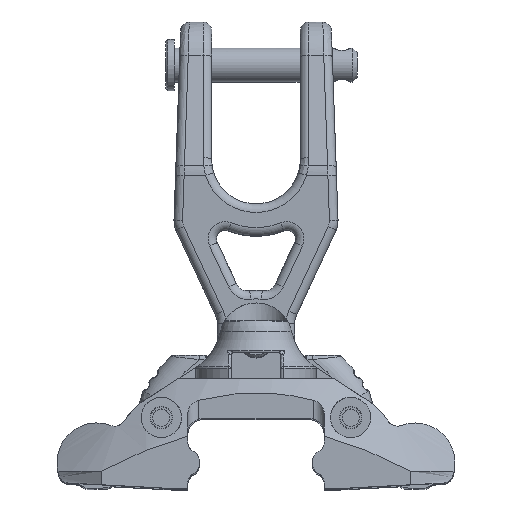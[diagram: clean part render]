
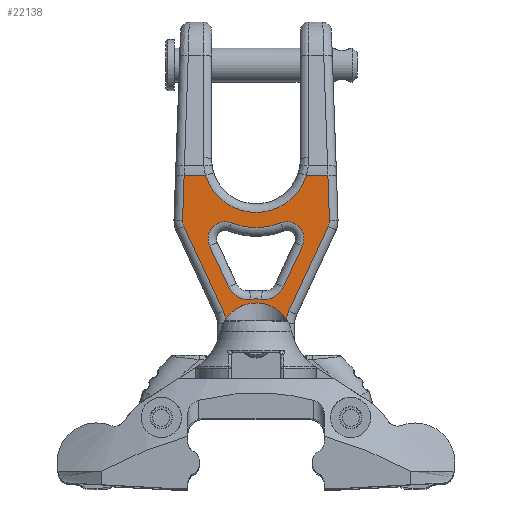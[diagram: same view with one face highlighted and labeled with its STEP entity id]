
A CAD part, top view. The second image highlights one B-rep face of the part: STEP entity #22138.
In plain terms, the highlighted planar face has unit normal (0, 0, 1) as drawn and (0, 0, -1) by its records, which use the part's own axes.
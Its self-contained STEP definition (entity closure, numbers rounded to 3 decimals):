
#18622=CARTESIAN_POINT('',(-7.164,23.541,
-15.925));
#18623=DIRECTION('',(0.,0.,1.));
#18624=DIRECTION('',(0.362,0.932,0.));
#18625=AXIS2_PLACEMENT_3D('',#18622,#18623,#18624);
#18627=CARTESIAN_POINT('',(0.,42.,-15.925));
#18628=DIRECTION('',(0.,0.,-1.));
#18629=DIRECTION('',(0.362,-0.932,0.));
#18630=AXIS2_PLACEMENT_3D('',#18627,#18628,#18629);
#18632=CARTESIAN_POINT('',(7.164,23.541,
-15.925));
#18633=DIRECTION('',(0.,0.,1.));
#18634=DIRECTION('',(0.906,-0.423,0.));
#18635=AXIS2_PLACEMENT_3D('',#18632,#18633,#18634);
#18637=DIRECTION('',(0.423,0.906,0.));
#18638=VECTOR('',#18637,10.46);
#18639=CARTESIAN_POINT('',(6.369,12.371,-15.925));
#18640=LINE('',#18639,#18638);
#18641=CARTESIAN_POINT('',(1.837,14.484,-15.925));
#18642=DIRECTION('',(0.,0.,1.));
#18643=DIRECTION('',(-0.126,-0.992,0.));
#18644=AXIS2_PLACEMENT_3D('',#18641,#18642,#18643);
#18646=CARTESIAN_POINT('',(0.,0.,-15.925));
#18647=DIRECTION('',(0.,0.,-1.));
#18648=DIRECTION('',(-0.126,0.992,0.));
#18649=AXIS2_PLACEMENT_3D('',#18646,#18647,#18648);
#18651=CARTESIAN_POINT('',(-1.837,14.484,-15.925));
#18652=DIRECTION('',(0.,0.,1.));
#18653=DIRECTION('',(-0.906,-0.423,0.));
#18654=AXIS2_PLACEMENT_3D('',#18651,#18652,#18653);
#18656=DIRECTION('',(0.423,-0.906,0.));
#18657=VECTOR('',#18656,10.46);
#18658=CARTESIAN_POINT('',(-10.789,21.851,-15.925));
#18659=LINE('',#18658,#18657);
#18660=CARTESIAN_POINT('',(0.,42.,-15.925));
#18661=DIRECTION('',(0.,0.,-1.));
#18662=DIRECTION('',(0.955,-0.298,0.));
#18663=AXIS2_PLACEMENT_3D('',#18660,#18661,#18662);
#18665=DIRECTION('',(1.,0.,0.));
#18666=VECTOR('',#18665,4.962);
#18667=CARTESIAN_POINT('',(-16.704,38.336,
-15.925));
#18668=LINE('',#18667,#18666);
#18669=DIRECTION('',(-0.035,-0.999,0.));
#18670=VECTOR('',#18669,10.528);
#18671=CARTESIAN_POINT('',(-16.704,38.336,
-15.925));
#18672=LINE('',#18671,#18670);
#18673=CARTESIAN_POINT('',(-14.073,27.71,-15.925));
#18674=DIRECTION('',(0.,0.,1.));
#18675=DIRECTION('',(-0.999,0.035,0.));
#18676=AXIS2_PLACEMENT_3D('',#18673,#18674,#18675);
#18678=DIRECTION('',(0.423,-0.906,0.));
#18679=VECTOR('',#18678,21.618);
#18680=CARTESIAN_POINT('',(-16.792,26.442,-15.925));
#18681=LINE('',#18680,#18679);
#18682=CARTESIAN_POINT('',(-14.,3.892,-15.925));
#18683=DIRECTION('',(0.,0.,-1.));
#18684=DIRECTION('',(0.906,0.423,0.));
#18685=AXIS2_PLACEMENT_3D('',#18682,#18683,#18684);
#18687=DIRECTION('',(0.,-1.,0.));
#18688=VECTOR('',#18687,3.892);
#18689=CARTESIAN_POINT('',(-7.,3.892,-15.925));
#18690=LINE('',#18689,#18688);
#18691=CARTESIAN_POINT('',(0.,0.,-15.925));
#18692=DIRECTION('',(0.,0.,1.));
#18693=DIRECTION('',(-1.,0.,0.));
#18694=AXIS2_PLACEMENT_3D('',#18691,#18692,#18693);
#18696=DIRECTION('',(0.,1.,0.));
#18697=VECTOR('',#18696,3.892);
#18698=CARTESIAN_POINT('',(7.,0.,-15.925));
#18699=LINE('',#18698,#18697);
#18700=CARTESIAN_POINT('',(14.,3.892,-15.925));
#18701=DIRECTION('',(0.,0.,-1.));
#18702=DIRECTION('',(-1.,0.,0.));
#18703=AXIS2_PLACEMENT_3D('',#18700,#18701,#18702);
#18705=DIRECTION('',(0.423,0.906,0.));
#18706=VECTOR('',#18705,21.618);
#18707=CARTESIAN_POINT('',(7.656,6.85,-15.925));
#18708=LINE('',#18707,#18706);
#18709=CARTESIAN_POINT('',(14.073,27.71,-15.925));
#18710=DIRECTION('',(0.,0.,1.));
#18711=DIRECTION('',(0.906,-0.423,0.));
#18712=AXIS2_PLACEMENT_3D('',#18709,#18710,#18711);
#18714=DIRECTION('',(-0.035,0.999,0.));
#18715=VECTOR('',#18714,10.528);
#18716=CARTESIAN_POINT('',(17.071,27.815,-15.925));
#18717=LINE('',#18716,#18715);
#18718=DIRECTION('',(1.,0.,0.));
#18719=VECTOR('',#18718,4.962);
#18720=CARTESIAN_POINT('',(11.742,38.336,
-15.925));
#18721=LINE('',#18720,#18719);
#18722=CARTESIAN_POINT('',(0.,0.,-15.925));
#18723=DIRECTION('',(0.,0.,-1.));
#18724=DIRECTION('',(1.,0.,0.));
#18725=AXIS2_PLACEMENT_3D('',#18722,#18723,#18724);
#18727=CARTESIAN_POINT('',(0.,0.,-15.925));
#18728=DIRECTION('',(0.,0.,-1.));
#18729=DIRECTION('',(-1.,0.,0.));
#18730=AXIS2_PLACEMENT_3D('',#18727,#18728,#18729);
#20477=CARTESIAN_POINT('',(11.742,38.336,
-15.925));
#20498=CARTESIAN_POINT('',(-16.704,38.336,
-15.925));
#20948=VERTEX_POINT('',#20498);
#20951=CARTESIAN_POINT('',(-17.071,27.815,-15.925));
#20952=VERTEX_POINT('',#20951);
#20955=CARTESIAN_POINT('',(-16.792,26.442,-15.925));
#20956=VERTEX_POINT('',#20955);
#20959=CARTESIAN_POINT('',(-7.656,6.85,-15.925));
#20960=VERTEX_POINT('',#20959);
#20963=CARTESIAN_POINT('',(-7.,3.892,-15.925));
#20964=VERTEX_POINT('',#20963);
#20967=CARTESIAN_POINT('',(-7.,0.,-15.925));
#20968=VERTEX_POINT('',#20967);
#20971=CARTESIAN_POINT('',(7.,0.,-15.925));
#20972=VERTEX_POINT('',#20971);
#20975=CARTESIAN_POINT('',(7.,3.892,-15.925));
#20976=VERTEX_POINT('',#20975);
#20979=CARTESIAN_POINT('',(7.656,6.85,-15.925));
#20980=VERTEX_POINT('',#20979);
#20983=CARTESIAN_POINT('',(16.792,26.442,-15.925));
#20984=VERTEX_POINT('',#20983);
#20987=CARTESIAN_POINT('',(17.071,27.815,-15.925));
#20988=VERTEX_POINT('',#20987);
#20991=CARTESIAN_POINT('',(16.704,38.336,
-15.925));
#20992=VERTEX_POINT('',#20991);
#21031=CARTESIAN_POINT('',(-5.717,27.27,
-15.925));
#21032=CARTESIAN_POINT('',(-10.789,21.851,
-15.925));
#21033=VERTEX_POINT('',#21031);
#21034=VERTEX_POINT('',#21032);
#21039=CARTESIAN_POINT('',(-6.369,12.371,-15.925));
#21040=VERTEX_POINT('',#21039);
#21043=CARTESIAN_POINT('',(-1.208,9.524,-15.925));
#21044=VERTEX_POINT('',#21043);
#21047=CARTESIAN_POINT('',(1.208,9.524,-15.925));
#21048=VERTEX_POINT('',#21047);
#21051=CARTESIAN_POINT('',(6.369,12.371,-15.925));
#21052=VERTEX_POINT('',#21051);
#21055=CARTESIAN_POINT('',(10.789,21.851,-15.925));
#21056=VERTEX_POINT('',#21055);
#21059=CARTESIAN_POINT('',(5.717,27.27,
-15.925));
#21060=VERTEX_POINT('',#21059);
#21084=VERTEX_POINT('',#20477);
#21087=CARTESIAN_POINT('',(-11.742,38.336,-15.925));
#21088=VERTEX_POINT('',#21087);
#21321=CARTESIAN_POINT('',(5.1,0.,-15.925));
#21322=CARTESIAN_POINT('',(-5.1,0.,-15.925));
#21323=VERTEX_POINT('',#21321);
#21324=VERTEX_POINT('',#21322);
#22083=CARTESIAN_POINT('',(50.,39.475,-15.925));
#22084=DIRECTION('',(0.,0.,1.));
#22085=DIRECTION('',(0.,-1.,0.));
#22086=AXIS2_PLACEMENT_3D('',#22083,#22084,#22085);
#22087=PLANE('',#22086);
#22089=ORIENTED_EDGE('',*,*,#22088,.T.);
#22091=ORIENTED_EDGE('',*,*,#22090,.F.);
#22093=ORIENTED_EDGE('',*,*,#22092,.T.);
#22095=ORIENTED_EDGE('',*,*,#22094,.T.);
#22097=ORIENTED_EDGE('',*,*,#22096,.T.);
#22099=ORIENTED_EDGE('',*,*,#22098,.T.);
#22101=ORIENTED_EDGE('',*,*,#22100,.T.);
#22103=ORIENTED_EDGE('',*,*,#22102,.T.);
#22105=ORIENTED_EDGE('',*,*,#22104,.T.);
#22107=ORIENTED_EDGE('',*,*,#22106,.T.);
#22109=ORIENTED_EDGE('',*,*,#22108,.T.);
#22110=ORIENTED_EDGE('',*,*,#21642,.T.);
#22111=ORIENTED_EDGE('',*,*,#21657,.T.);
#22113=ORIENTED_EDGE('',*,*,#22112,.F.);
#22114=EDGE_LOOP('',(#22089,#22091,#22093,#22095,#22097,#22099,#22101,#22103,
#22105,#22107,#22109,#22110,#22111,#22113));
#22115=FACE_OUTER_BOUND('',#22114,.F.);
#22117=ORIENTED_EDGE('',*,*,#22116,.F.);
#22119=ORIENTED_EDGE('',*,*,#22118,.F.);
#22121=ORIENTED_EDGE('',*,*,#22120,.F.);
#22123=ORIENTED_EDGE('',*,*,#22122,.F.);
#22125=ORIENTED_EDGE('',*,*,#22124,.F.);
#22127=ORIENTED_EDGE('',*,*,#22126,.F.);
#22129=ORIENTED_EDGE('',*,*,#22128,.F.);
#22131=ORIENTED_EDGE('',*,*,#22130,.F.);
#22132=EDGE_LOOP('',(#22117,#22119,#22121,#22123,#22125,#22127,#22129,#22131));
#22133=FACE_BOUND('',#22132,.F.);
#22134=ORIENTED_EDGE('',*,*,#22077,.T.);
#22135=ORIENTED_EDGE('',*,*,#22063,.T.);
#22136=EDGE_LOOP('',(#22134,#22135));
#22137=FACE_BOUND('',#22136,.F.);
#22138=ADVANCED_FACE('',(#22115,#22133,#22137),#22087,.F.);
#18626=CIRCLE('',#18625,4.);
#18631=CIRCLE('',#18630,15.8);
#18636=CIRCLE('',#18635,4.);
#18645=CIRCLE('',#18644,5.);
#18650=CIRCLE('',#18649,9.6);
#18655=CIRCLE('',#18654,5.);
#18664=CIRCLE('',#18663,12.3);
#18677=CIRCLE('',#18676,3.);
#18686=CIRCLE('',#18685,7.);
#18695=CIRCLE('',#18694,7.);
#18704=CIRCLE('',#18703,7.);
#18713=CIRCLE('',#18712,3.);
#18726=CIRCLE('',#18725,5.1);
#18731=CIRCLE('',#18730,5.1);
#21642=EDGE_CURVE('',#20984,#20988,#18713,.T.);
#21657=EDGE_CURVE('',#20988,#20992,#18717,.T.);
#22063=EDGE_CURVE('',#21324,#21323,#18731,.T.);
#22077=EDGE_CURVE('',#21323,#21324,#18726,.T.);
#22088=EDGE_CURVE('',#21084,#21088,#18664,.T.);
#22090=EDGE_CURVE('',#20948,#21088,#18668,.T.);
#22092=EDGE_CURVE('',#20948,#20952,#18672,.T.);
#22094=EDGE_CURVE('',#20952,#20956,#18677,.T.);
#22096=EDGE_CURVE('',#20956,#20960,#18681,.T.);
#22098=EDGE_CURVE('',#20960,#20964,#18686,.T.);
#22100=EDGE_CURVE('',#20964,#20968,#18690,.T.);
#22102=EDGE_CURVE('',#20968,#20972,#18695,.T.);
#22104=EDGE_CURVE('',#20972,#20976,#18699,.T.);
#22106=EDGE_CURVE('',#20976,#20980,#18704,.T.);
#22108=EDGE_CURVE('',#20980,#20984,#18708,.T.);
#22112=EDGE_CURVE('',#21084,#20992,#18721,.T.);
#22116=EDGE_CURVE('',#21033,#21034,#18626,.T.);
#22118=EDGE_CURVE('',#21060,#21033,#18631,.T.);
#22120=EDGE_CURVE('',#21056,#21060,#18636,.T.);
#22122=EDGE_CURVE('',#21052,#21056,#18640,.T.);
#22124=EDGE_CURVE('',#21048,#21052,#18645,.T.);
#22126=EDGE_CURVE('',#21044,#21048,#18650,.T.);
#22128=EDGE_CURVE('',#21040,#21044,#18655,.T.);
#22130=EDGE_CURVE('',#21034,#21040,#18659,.T.);
